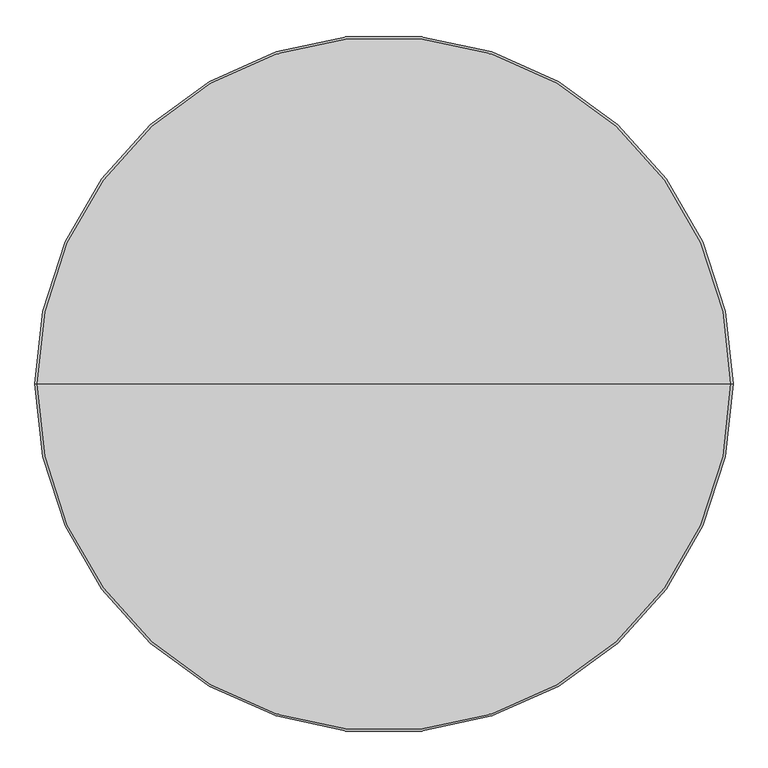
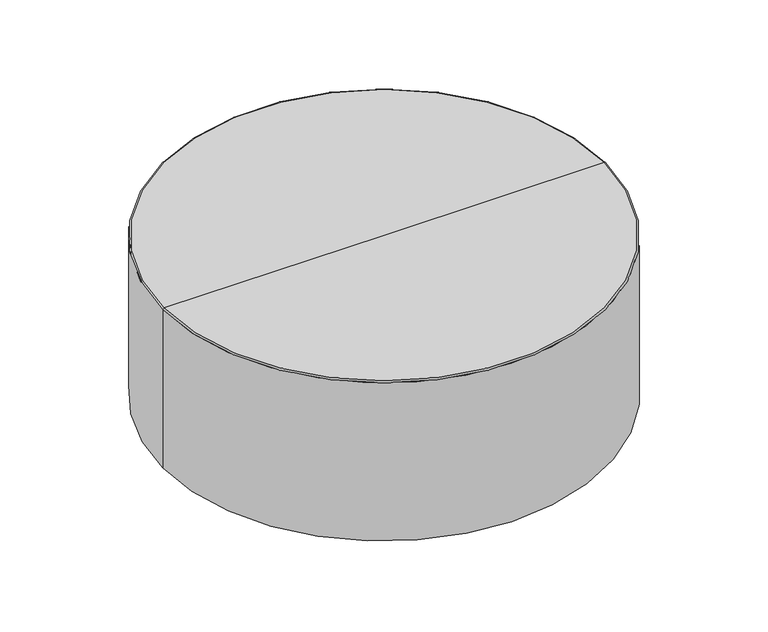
"""IFC4 building model written with IfcOpenShell, lengths in millimetres: furniture geometry, StanceHC-Drum_Table_Upholstered : DRT-42D-16-H."""

from ifc_helpers import new_model, si_unit, point, frame, frame_2d, origin, origin_with_axes, place, context, project, spatial, circle_curve, ellipse_curve, trimmed, segment, composite_curve, outline, extrude, source, transform, mapped, element, save
from ifc_brep_helpers import plane_surface, cylinder_surface, revolved_surface, advanced_brep


def furniture_4c804765(model_context):
    return source(origin(), model_context, "Body", "SolidModel", [
        extrude(outline(composite_curve([segment(trimmed(circle_curve(frame_2d((0.0, 472.3664845)), 12.7), [point((-12.7, 472.3664845))], [point((12.7, 472.3664845))], False, "CARTESIAN"), True, "CONTINUOUS"), segment(trimmed(circle_curve(frame_2d((0.0, 472.3664845)), 12.7), [point((12.7, 472.3664845))], [point((-12.7, 472.3664845))], False, "CARTESIAN"), True, "CONTINUOUS")], self_intersect=False)), origin_with_axes(), (0.0, 0.0, 1.0), 4.7625),
        extrude(outline(composite_curve([segment(trimmed(circle_curve(frame_2d((0.0, -472.3664845)), 12.7), [point((-12.7, -472.3664845))], [point((12.7, -472.3664845))], False, "CARTESIAN"), True, "CONTINUOUS"), segment(trimmed(circle_curve(frame_2d((0.0, -472.3664845)), 12.7), [point((12.7, -472.3664845))], [point((-12.7, -472.3664845))], False, "CARTESIAN"), True, "CONTINUOUS")], self_intersect=False)), origin_with_axes(), (0.0, 0.0, 1.0), 4.7625),
        extrude(outline(composite_curve([segment(trimmed(circle_curve(frame_2d((476.2496404, 0.0)), 12.7), [point((463.5496404, 0.0))], [point((488.9496404, 0.0))], False, "CARTESIAN"), True, "CONTINUOUS"), segment(trimmed(circle_curve(frame_2d((476.2496404, 0.0)), 12.7), [point((488.9496404, 0.0))], [point((463.5496404, 0.0))], False, "CARTESIAN"), True, "CONTINUOUS")], self_intersect=False)), origin_with_axes(), (0.0, 0.0, 1.0), 4.7625),
        extrude(outline(composite_curve([segment(trimmed(circle_curve(frame_2d((-476.2496404, 0.0)), 12.7), [point((-488.9496404, 0.0))], [point((-463.5496404, 0.0))], False, "CARTESIAN"), True, "CONTINUOUS"), segment(trimmed(circle_curve(frame_2d((-476.2496404, 0.0)), 12.7), [point((-463.5496404, 0.0))], [point((-488.9496404, 0.0))], False, "CARTESIAN"), True, "CONTINUOUS")], self_intersect=False)), origin_with_axes(), (0.0, 0.0, 1.0), 4.7625),
        advanced_brep(
        [(-533.4, 0.0, 4.7625), (533.4, 0.0, 4.7625), (0.0, 0.0, 4.7625), (-533.4, 0.0, 408.0389933), (533.4, 0.0, 408.0389933), (-530.2764933, 0.0, 411.1625), (530.2764933, 0.0, 411.1625), (0.0, 0.0, 411.1625)],
        [
            (0, 1, circle_curve(frame((0.0, 0.0, 4.7625), z_axis=(0.0, 0.0, -1.0), x_axis=(1.0, 0.0, 0.0)), 533.4)),
            (1, 2),
            (2, 0),
            (1, 0, circle_curve(frame((0.0, 0.0, 4.7625), z_axis=(0.0, 0.0, -1.0), x_axis=(1.0, 0.0, 0.0)), 533.4)),
            (3, 4, circle_curve(frame((0.0, 0.0, 408.0389933), z_axis=(0.0, 0.0, -1.0), x_axis=(1.0, 0.0, 0.0)), 533.4)),
            (4, 1),
            (0, 3),
            (4, 3, circle_curve(frame((0.0, 0.0, 408.0389933), z_axis=(0.0, 0.0, -1.0), x_axis=(1.0, 0.0, 0.0)), 533.4)),
            (5, 6, circle_curve(frame((0.0, 0.0, 411.1625), z_axis=(0.0, 0.0, -1.0), x_axis=(1.0, 0.0, 0.0)), 530.2764933)),
            (6, 4, circle_curve(frame((530.2764933, 0.0, 408.0389933), z_axis=(0.0, 1.0, 0.0), x_axis=(1.0, 0.0, 0.0)), 3.1235067)),
            (3, 5, circle_curve(frame((-530.2764933, 0.0, 408.0389933), z_axis=(0.0, 1.0, 0.0), x_axis=(-1.0, 0.0, 0.0)), 3.1235067)),
            (6, 5, circle_curve(frame((0.0, 0.0, 411.1625), z_axis=(0.0, 0.0, -1.0), x_axis=(1.0, 0.0, 0.0)), 530.2764933)),
            (7, 6),
            (5, 7),
        ],
        [
            plane_surface(frame((0.0, 0.0, 4.7625), z_axis=(0.0, 0.0, -1.0), x_axis=(1.0, 0.0, 0.0))),
            cylinder_surface(frame((0.0, 0.0, 506.4125), z_axis=(0.0, 0.0, 1.0), x_axis=(1.0, 0.0, 0.0)), 533.4),
            revolved_surface(trimmed(ellipse_curve(frame((530.2764933, 0.0, 408.0389933), z_axis=(0.0, -1.0, 0.0), x_axis=(1.0, 0.0, 0.0)), 3.1235067, 3.1235067), [point((533.4, 0.0, 408.0389933))], [point((530.2764933, 0.0, 411.1625))], True, "CARTESIAN"), (0.0, 0.0, 506.4125), (0.0, 0.0, 1.0)),
            plane_surface(frame((0.0, 0.0, 411.1625), z_axis=(0.0, 0.0, 1.0), x_axis=(1.0, 0.0, 0.0))),
        ],
        [
            (0, [[1, 2, 3]]),
            (0, [[4, -3, -2]]),
            (1, [[5, 6, -1, 7]]),
            (1, [[8, -7, -4, -6]]),
            (2, [[9, 10, -5, 11]]),
            (2, [[12, -11, -8, -10]]),
            (3, [[13, -9, 14]]),
            (3, [[-14, -12, -13]]),
        ],
    ),
    ])


if __name__ == "__main__":
    model = new_model("IFC4")
    model_context = context("Model", 3, world=origin())
    ifc_project = project(units=[si_unit("LENGTHUNIT", "METRE", prefix="MILLI")], contexts=[model_context])
    site = spatial("IfcSite", under=ifc_project)
    building = spatial("IfcBuilding", under=site)
    placement = place(None, origin())
    furniture_shape = furniture_4c804765(model_context)
    element("IfcFurniture", 1, ObjectType="StanceHC-Drum_Table_Upholstered : DRT-42D-16-H", at=placement, inside=building, context=model_context, shape_type="MappedRepresentation", body=[
        mapped(furniture_shape, transform((0.0, 0.0, 0.0), x_axis=(1.0, 0.0, 0.0), y_axis=(0.0, 1.0, 0.0), z_axis=(0.0, 0.0, 1.0))),
    ])
    save(model, "model.ifc")
